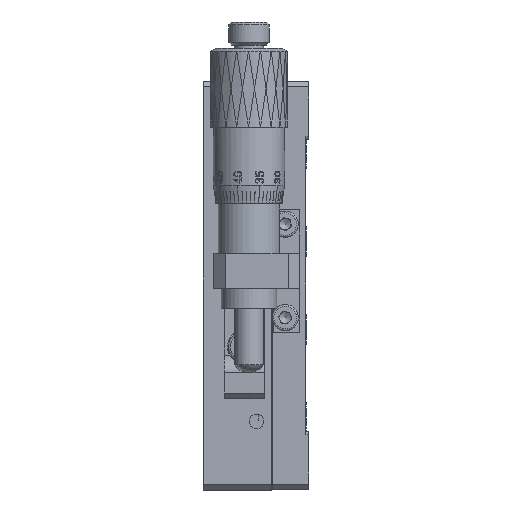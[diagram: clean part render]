
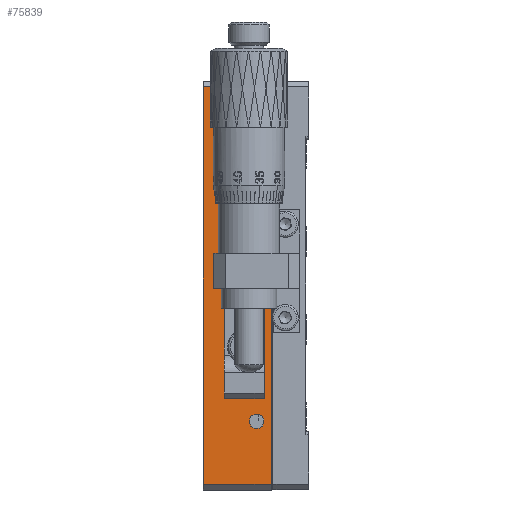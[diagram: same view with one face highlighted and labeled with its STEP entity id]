
A CAD part, left-side view. The second image highlights one B-rep face of the part: STEP entity #75839.
In plain terms, the highlighted planar face has unit normal (-1, 0, 0).
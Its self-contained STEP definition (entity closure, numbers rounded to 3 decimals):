
#167 = DIRECTION ( 'NONE',  ( 0., 0., 1. ) ) ;
#452 = EDGE_CURVE ( 'NONE', #16997, #16997, #58719, .T. ) ;
#615 = DIRECTION ( 'NONE',  ( 0., 0., 1. ) ) ;
#1568 = ORIENTED_EDGE ( 'NONE', *, *, #452, .F. ) ;
#2668 = ORIENTED_EDGE ( 'NONE', *, *, #63605, .F. ) ;
#2673 = FACE_BOUND ( 'NONE', #72673, .T. ) ;
#3574 = CARTESIAN_POINT ( 'NONE',  ( 0., 0.3, 69. ) ) ;
#3930 = DIRECTION ( 'NONE',  ( 0., 0., -1. ) ) ;
#4112 = EDGE_CURVE ( 'NONE', #82360, #82360, #19698, .T. ) ;
#4361 = CIRCLE ( 'NONE', #59999, 1.25 ) ;
#4589 = EDGE_CURVE ( 'NONE', #45412, #45412, #39200, .T. ) ;
#7336 = AXIS2_PLACEMENT_3D ( 'NONE', #62430, #81982, #23808 ) ;
#7977 = CARTESIAN_POINT ( 'NONE',  ( 0., 4.9, 25.525 ) ) ;
#10303 = FACE_OUTER_BOUND ( 'NONE', #30612, .T. ) ;
#11407 = EDGE_LOOP ( 'NONE', ( #60271 ) ) ;
#11699 = LINE ( 'NONE', #36326, #26639 ) ;
#12590 = CARTESIAN_POINT ( 'NONE',  ( 0., 0.3, 69. ) ) ;
#13833 = VECTOR ( 'NONE', #43582, 1000. ) ;
#14287 = VECTOR ( 'NONE', #79356, 1000. ) ;
#16997 = VERTEX_POINT ( 'NONE', #42874 ) ;
#17483 = DIRECTION ( 'NONE',  ( 0., 0., -1. ) ) ;
#19698 = CIRCLE ( 'NONE', #30539, 1.25 ) ;
#20138 = CARTESIAN_POINT ( 'NONE',  ( 0., 4.9, 40.5 ) ) ;
#20781 = LINE ( 'NONE', #53452, #14287 ) ;
#21244 = AXIS2_PLACEMENT_3D ( 'NONE', #26650, #33864, #52548 ) ;
#23808 = DIRECTION ( 'NONE',  ( 0., 0., -1. ) ) ;
#24271 = AXIS2_PLACEMENT_3D ( 'NONE', #49744, #75642, #17483 ) ;
#24557 = DIRECTION ( 'NONE',  ( 1., 0., 0. ) ) ;
#25811 = LINE ( 'NONE', #69547, #76882 ) ;
#26032 = VERTEX_POINT ( 'NONE', #70356 ) ;
#26159 = EDGE_LOOP ( 'NONE', ( #2668 ) ) ;
#26639 = VECTOR ( 'NONE', #81759, 1000. ) ;
#26650 = CARTESIAN_POINT ( 'NONE',  ( 0., 4.9, 24.5 ) ) ;
#28982 = FACE_BOUND ( 'NONE', #67159, .T. ) ;
#29401 = FACE_BOUND ( 'NONE', #80620, .T. ) ;
#30370 = CARTESIAN_POINT ( 'NONE',  ( 0., 2.8, 41.5 ) ) ;
#30539 = AXIS2_PLACEMENT_3D ( 'NONE', #62158, #48170, #74068 ) ;
#30612 = EDGE_LOOP ( 'NONE', ( #81223, #47930, #49628, #61884 ) ) ;
#31028 = ORIENTED_EDGE ( 'NONE', *, *, #64261, .T. ) ;
#31576 = CARTESIAN_POINT ( 'NONE',  ( 0., 5.4, 37.5 ) ) ;
#31697 = LINE ( 'NONE', #12590, #13833 ) ;
#31786 = DIRECTION ( 'NONE',  ( 0., 0., -1. ) ) ;
#32572 = VERTEX_POINT ( 'NONE', #77851 ) ;
#32870 = DIRECTION ( 'NONE',  ( -1., 0., 0. ) ) ;
#32890 = ORIENTED_EDGE ( 'NONE', *, *, #4589, .T. ) ;
#33732 = VERTEX_POINT ( 'NONE', #45202 ) ;
#33864 = DIRECTION ( 'NONE',  ( -1., 0., 0. ) ) ;
#35060 = EDGE_CURVE ( 'NONE', #62611, #62611, #53424, .T. ) ;
#35773 = FACE_BOUND ( 'NONE', #26159, .T. ) ;
#36182 = CARTESIAN_POINT ( 'NONE',  ( 0., 0.3, 70. ) ) ;
#36326 = CARTESIAN_POINT ( 'NONE',  ( 0., 11.9, 70. ) ) ;
#37538 = AXIS2_PLACEMENT_3D ( 'NONE', #65307, #24557, #31786 ) ;
#38879 = CIRCLE ( 'NONE', #21244, 1.025 ) ;
#39200 = CIRCLE ( 'NONE', #24271, 1.25 ) ;
#40189 = EDGE_LOOP ( 'NONE', ( #1568 ) ) ;
#42569 = EDGE_LOOP ( 'NONE', ( #67333 ) ) ;
#42874 = CARTESIAN_POINT ( 'NONE',  ( 0., 4.9, 41.525 ) ) ;
#42927 = CIRCLE ( 'NONE', #37538, 1.25 ) ;
#43582 = DIRECTION ( 'NONE',  ( 0., 1., 0. ) ) ;
#44606 = EDGE_CURVE ( 'NONE', #33732, #33732, #4361, .T. ) ;
#45025 = VERTEX_POINT ( 'NONE', #76421 ) ;
#45202 = CARTESIAN_POINT ( 'NONE',  ( 0., 5.4, 38.75 ) ) ;
#45412 = VERTEX_POINT ( 'NONE', #70030 ) ;
#47663 = FACE_BOUND ( 'NONE', #11407, .T. ) ;
#47930 = ORIENTED_EDGE ( 'NONE', *, *, #49766, .T. ) ;
#48170 = DIRECTION ( 'NONE',  ( 1., 0., 0. ) ) ;
#49628 = ORIENTED_EDGE ( 'NONE', *, *, #62736, .T. ) ;
#49744 = CARTESIAN_POINT ( 'NONE',  ( 0., 2.8, 58.25 ) ) ;
#49766 = EDGE_CURVE ( 'NONE', #63677, #26032, #31697, .T. ) ;
#50594 = AXIS2_PLACEMENT_3D ( 'NONE', #20138, #32870, #615 ) ;
#51707 = DIRECTION ( 'NONE',  ( 0., 0., -1. ) ) ;
#52548 = DIRECTION ( 'NONE',  ( 0., 0., 1. ) ) ;
#53424 = CIRCLE ( 'NONE', #7336, 1.25 ) ;
#53452 = CARTESIAN_POINT ( 'NONE',  ( 0., 0.3, 1. ) ) ;
#53777 = VERTEX_POINT ( 'NONE', #61386 ) ;
#54610 = VERTEX_POINT ( 'NONE', #7977 ) ;
#58304 = DIRECTION ( 'NONE',  ( -1., 0., 0. ) ) ;
#58719 = CIRCLE ( 'NONE', #50594, 1.025 ) ;
#59999 = AXIS2_PLACEMENT_3D ( 'NONE', #31576, #58304, #167 ) ;
#60271 = ORIENTED_EDGE ( 'NONE', *, *, #35060, .T. ) ;
#61229 = FACE_BOUND ( 'NONE', #40189, .T. ) ;
#61386 = CARTESIAN_POINT ( 'NONE',  ( 0., 2.8, 26. ) ) ;
#61884 = ORIENTED_EDGE ( 'NONE', *, *, #78592, .T. ) ;
#62070 = DIRECTION ( 'NONE',  ( 1., 0., 0. ) ) ;
#62158 = CARTESIAN_POINT ( 'NONE',  ( 0., 2.8, 11.75 ) ) ;
#62430 = CARTESIAN_POINT ( 'NONE',  ( 0., 2.8, 42.75 ) ) ;
#62611 = VERTEX_POINT ( 'NONE', #30370 ) ;
#62736 = EDGE_CURVE ( 'NONE', #26032, #45025, #11699, .T. ) ;
#63053 = AXIS2_PLACEMENT_3D ( 'NONE', #36182, #62070, #3930 ) ;
#63582 = EDGE_CURVE ( 'NONE', #63677, #32572, #25811, .T. ) ;
#63605 = EDGE_CURVE ( 'NONE', #54610, #54610, #38879, .T. ) ;
#63677 = VERTEX_POINT ( 'NONE', #3574 ) ;
#64261 = EDGE_CURVE ( 'NONE', #53777, #53777, #42927, .T. ) ;
#64516 = CARTESIAN_POINT ( 'NONE',  ( 0., 2.8, 10.5 ) ) ;
#65307 = CARTESIAN_POINT ( 'NONE',  ( 0., 2.8, 27.25 ) ) ;
#67159 = EDGE_LOOP ( 'NONE', ( #31028 ) ) ;
#67333 = ORIENTED_EDGE ( 'NONE', *, *, #44606, .F. ) ;
#68447 = FACE_BOUND ( 'NONE', #42569, .T. ) ;
#69547 = CARTESIAN_POINT ( 'NONE',  ( 0., 0.3, 70. ) ) ;
#70030 = CARTESIAN_POINT ( 'NONE',  ( 0., 2.8, 57. ) ) ;
#70356 = CARTESIAN_POINT ( 'NONE',  ( 0., 11.9, 69. ) ) ;
#72673 = EDGE_LOOP ( 'NONE', ( #32890 ) ) ;
#74068 = DIRECTION ( 'NONE',  ( 0., 0., -1. ) ) ;
#75642 = DIRECTION ( 'NONE',  ( 1., 0., 0. ) ) ;
#75839 = ADVANCED_FACE ( 'NONE', ( #68447, #35773, #61229, #47663, #2673, #28982, #29401, #10303 ), #80778, .F. ) ;
#76421 = CARTESIAN_POINT ( 'NONE',  ( 0., 11.9, 1. ) ) ;
#76628 = ORIENTED_EDGE ( 'NONE', *, *, #4112, .T. ) ;
#76882 = VECTOR ( 'NONE', #51707, 1000. ) ;
#77851 = CARTESIAN_POINT ( 'NONE',  ( 0., 0.3, 1. ) ) ;
#78592 = EDGE_CURVE ( 'NONE', #45025, #32572, #20781, .T. ) ;
#79356 = DIRECTION ( 'NONE',  ( 0., -1., 0. ) ) ;
#80620 = EDGE_LOOP ( 'NONE', ( #76628 ) ) ;
#80778 = PLANE ( 'NONE',  #63053 ) ;
#81223 = ORIENTED_EDGE ( 'NONE', *, *, #63582, .F. ) ;
#81759 = DIRECTION ( 'NONE',  ( 0., 0., -1. ) ) ;
#81982 = DIRECTION ( 'NONE',  ( 1., 0., 0. ) ) ;
#82360 = VERTEX_POINT ( 'NONE', #64516 ) ;
